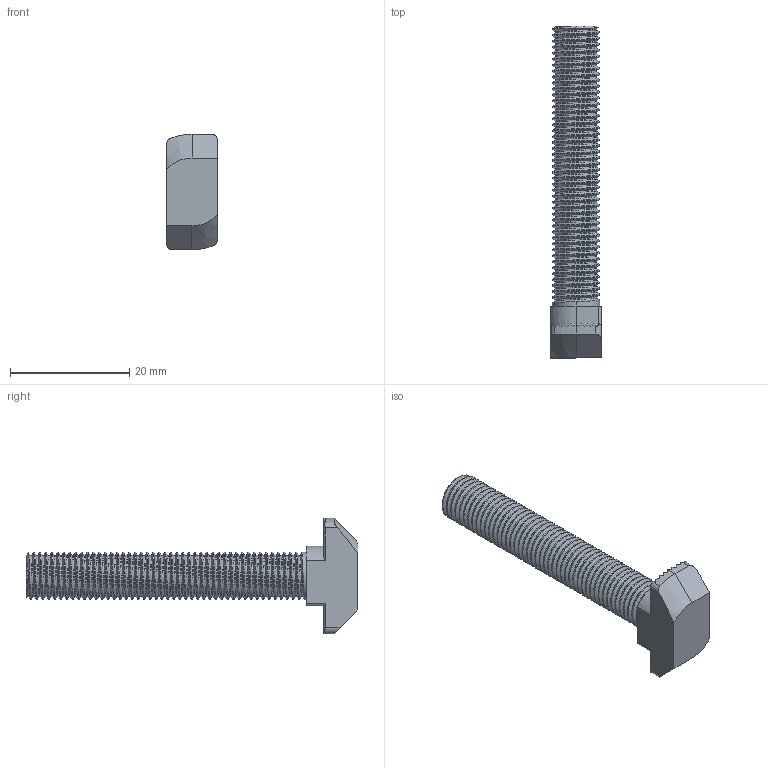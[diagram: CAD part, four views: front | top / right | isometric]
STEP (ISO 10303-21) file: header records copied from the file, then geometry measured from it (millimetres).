
FILE_DESCRIPTION (( 'STEP AP203' ), '1' );
FILE_NAME ('99900145_Hammerschraube M8x50.step', '2022-10-10T10:04:47', ( '' ), ( '' ), 'SwSTEP 2.0', 'SolidWorks 2021', '' );
FILE_SCHEMA (( 'CONFIG_CONTROL_DESIGN' ));
Length unit declared in the file: millimetre
Products named in the file (1): 99900145_Hammerschraube M8x50
Bounding box: 8.5 x 55.7 x 19.4 mm (x, y, z)
Volume: 3017.8 mm3; surface area: 2447 mm2
Topology: 1 solids, 1 shells, 160 faces, 463 edges, 306 vertices
Faces by surface type: cylinder 104, plane 48, cone 5, bspline 3
Entity records: 12235 total; most frequent: CARTESIAN_POINT 8676, ORIENTED_EDGE 926, DIRECTION 545, EDGE_CURVE 463, VERTEX_POINT 306, VECTOR 199, LINE 199, AXIS2_PLACEMENT_3D 173
